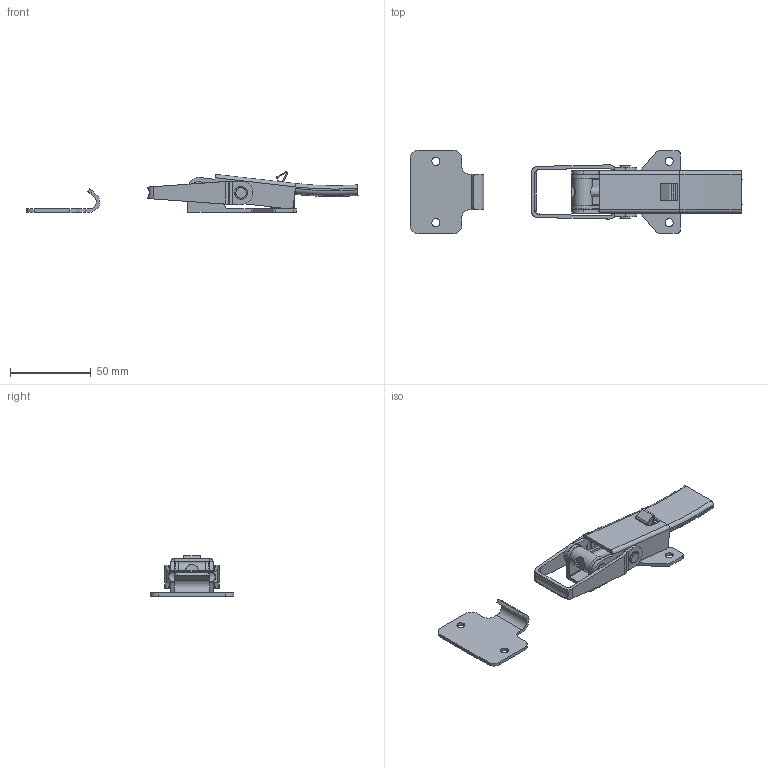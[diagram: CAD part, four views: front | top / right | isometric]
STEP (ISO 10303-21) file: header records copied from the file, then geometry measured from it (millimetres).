
FILE_DESCRIPTION(/* description */ (''),/* implementation_level */ '2;1');
FILE_NAME(/* name */ '\\NAS\db20\C-M73-B\DR_C-M73-B.stp',/* time_stamp */ '2018-03-01T16:25:57+09:00',/* author */ ('user'),/* organization */ (''),/* preprocessor_version */ 'ST-DEVELOPER v15.6',/* originating_system */ 'Autodesk Inventor 2015',/* authorisation */ '');
FILE_SCHEMA (('AUTOMOTIVE_DESIGN { 1 0 10303 214 3 1 1 }'));
Length unit declared in the file: millimetre
Products named in the file (6): DR_C-M73-B; DR_C-M73-B-B; DR_C-M73-B-c; DR_C-M73-B-P; DR_C-M73-B-ca
Bounding box: 205.08 x 51.5 x 25 mm (x, y, z)
Volume: 27578 mm3; surface area: 28755.4 mm2
Topology: 5 solids, 5 shells, 229 faces, 607 edges, 396 vertices
Faces by surface type: plane 108, cylinder 95, torus 12, bspline 10, cone 4
Full cylindrical faces by diameter (mm): 5 x6, 6 x2, 6.5 x2, 8 x8, 11 x1, 12 x1
Entity records: 7838 total; most frequent: CARTESIAN_POINT 1990, DIRECTION 1215, ORIENTED_EDGE 1154, EDGE_CURVE 577, AXIS2_PLACEMENT_3D 453, VERTEX_POINT 388, LINE 309, VECTOR 309
